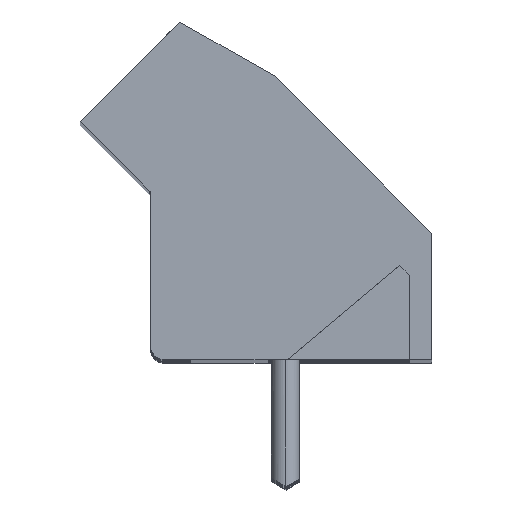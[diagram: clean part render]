
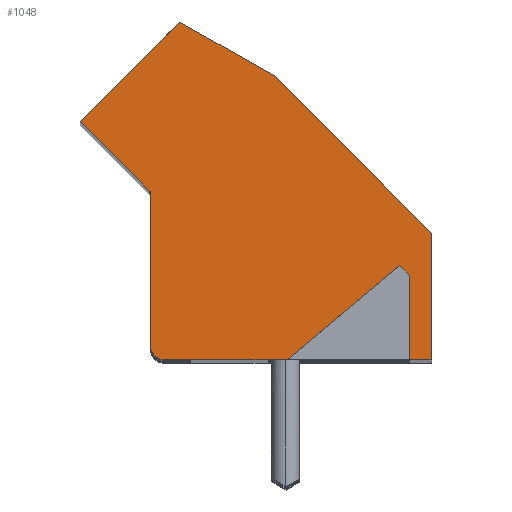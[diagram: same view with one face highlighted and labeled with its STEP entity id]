
A CAD part, top view. The second image highlights one B-rep face of the part: STEP entity #1048.
In plain terms, the highlighted planar face has unit normal (0, 0, 1).
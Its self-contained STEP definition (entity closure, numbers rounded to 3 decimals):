
#118 = VERTEX_POINT ( 'NONE', #8466 ) ;
#120 = EDGE_CURVE ( 'NONE', #118, #121, #8465, .T. ) ;
#121 = VERTEX_POINT ( 'NONE', #8461 ) ;
#134 = VERTEX_POINT ( 'NONE', #8506 ) ;
#136 = EDGE_CURVE ( 'NONE', #134, #137, #8505, .T. ) ;
#137 = VERTEX_POINT ( 'NONE', #8501 ) ;
#152 = EDGE_CURVE ( 'NONE', #178, #171, #8545, .T. ) ;
#171 = VERTEX_POINT ( 'NONE', #8568 ) ;
#178 = VERTEX_POINT ( 'NONE', #8556 ) ;
#181 = EDGE_CURVE ( 'NONE', #121, #182, #8555, .T. ) ;
#182 = VERTEX_POINT ( 'NONE', #8551 ) ;
#190 = EDGE_CURVE ( 'NONE', #182, #191, #8603, .T. ) ;
#191 = VERTEX_POINT ( 'NONE', #8599 ) ;
#193 = EDGE_CURVE ( 'NONE', #137, #194, #8598, .T. ) ;
#194 = VERTEX_POINT ( 'NONE', #8594 ) ;
#319 = EDGE_CURVE ( 'NONE', #15335, #178, #8674, .T. ) ;
#510 = EDGE_CURVE ( 'NONE', #194, #118, #8710, .T. ) ;
#515 = EDGE_CURVE ( 'NONE', #191, #15239, #8706, .T. ) ;
#625 = EDGE_CURVE ( 'NONE', #994, #1052, #8971, .T. ) ;
#994 = VERTEX_POINT ( 'NONE', #9887 ) ;
#996 = EDGE_CURVE ( 'NONE', #994, #134, #9886, .T. ) ;
#1034 = ORIENTED_EDGE ( 'NONE', *, *, #515, .F. ) ;
#1035 = ORIENTED_EDGE ( 'NONE', *, *, #190, .F. ) ;
#1036 = ORIENTED_EDGE ( 'NONE', *, *, #181, .F. ) ;
#1037 = ORIENTED_EDGE ( 'NONE', *, *, #120, .F. ) ;
#1038 = ORIENTED_EDGE ( 'NONE', *, *, #510, .F. ) ;
#1039 = ORIENTED_EDGE ( 'NONE', *, *, #193, .F. ) ;
#1040 = ORIENTED_EDGE ( 'NONE', *, *, #136, .F. ) ;
#1041 = ORIENTED_EDGE ( 'NONE', *, *, #996, .F. ) ;
#1042 = ORIENTED_EDGE ( 'NONE', *, *, #625, .T. ) ;
#1048 = ADVANCED_FACE ( 'NONE', ( #9935 ), #9934, .F. ) ;
#1049 = EDGE_LOOP ( 'NONE', ( #1050, #1053, #1054, #1055, #1034, #1035, #1036, #1037, #1038, #1039, #1040, #1041, #1042 ) ) ;
#1050 = ORIENTED_EDGE ( 'NONE', *, *, #1051, .T. ) ;
#1051 = EDGE_CURVE ( 'NONE', #1052, #171, #9929, .T. ) ;
#1052 = VERTEX_POINT ( 'NONE', #9925 ) ;
#1053 = ORIENTED_EDGE ( 'NONE', *, *, #152, .F. ) ;
#1054 = ORIENTED_EDGE ( 'NONE', *, *, #319, .F. ) ;
#1055 = ORIENTED_EDGE ( 'NONE', *, *, #15334, .T. ) ;
#8461 = CARTESIAN_POINT ( 'NONE',  ( 9.2, 2.984, 0. ) ) ;
#8462 = DIRECTION ( 'NONE',  ( 0., 1., 0. ) ) ;
#8463 = VECTOR ( 'NONE', #8462, 1000. ) ;
#8464 = CARTESIAN_POINT ( 'NONE',  ( 9.2, 6.02, 0. ) ) ;
#8465 = LINE ( 'NONE', #8464, #8463 ) ;
#8466 = CARTESIAN_POINT ( 'NONE',  ( 9.2, -0.016, 0. ) ) ;
#8501 = CARTESIAN_POINT ( 'NONE',  ( 10., 4.484, 0. ) ) ;
#8502 = DIRECTION ( 'NONE',  ( 0.707, -0.707, 0. ) ) ;
#8503 = VECTOR ( 'NONE', #8502, 1000. ) ;
#8504 = CARTESIAN_POINT ( 'NONE',  ( 4.411, 10.073, 0. ) ) ;
#8505 = LINE ( 'NONE', #8504, #8503 ) ;
#8506 = CARTESIAN_POINT ( 'NONE',  ( 4.411, 10.073, 0. ) ) ;
#8541 = DIRECTION ( 'NONE',  ( 1., 0., 0. ) ) ;
#8542 = DIRECTION ( 'NONE',  ( 0., 0., 1. ) ) ;
#8543 = CARTESIAN_POINT ( 'NONE',  ( -0.1, 5.907, 0. ) ) ;
#8544 = AXIS2_PLACEMENT_3D ( 'NONE', #8543, #8542, #8541 ) ;
#8545 = CIRCLE ( 'NONE', #8544, 0.1 ) ;
#8551 = CARTESIAN_POINT ( 'NONE',  ( 8.85, 3.334, 0. ) ) ;
#8552 = DIRECTION ( 'NONE',  ( -0.707, 0.707, 0. ) ) ;
#8553 = VECTOR ( 'NONE', #8552, 1000. ) ;
#8554 = CARTESIAN_POINT ( 'NONE',  ( 9.2, 2.984, 0. ) ) ;
#8555 = LINE ( 'NONE', #8554, #8553 ) ;
#8556 = CARTESIAN_POINT ( 'NONE',  ( 0., 5.907, 0. ) ) ;
#8568 = CARTESIAN_POINT ( 'NONE',  ( -0.029, 5.978, 0. ) ) ;
#8594 = CARTESIAN_POINT ( 'NONE',  ( 10., -0.016, 0. ) ) ;
#8595 = DIRECTION ( 'NONE',  ( 0., -1., 0. ) ) ;
#8596 = VECTOR ( 'NONE', #8595, 1000. ) ;
#8597 = CARTESIAN_POINT ( 'NONE',  ( 10., 6.02, 0. ) ) ;
#8598 = LINE ( 'NONE', #8597, #8596 ) ;
#8599 = CARTESIAN_POINT ( 'NONE',  ( 4.858, -0.016, 0. ) ) ;
#8600 = DIRECTION ( 'NONE',  ( -0.766, -0.643, 0. ) ) ;
#8601 = VECTOR ( 'NONE', #8600, 1000. ) ;
#8602 = CARTESIAN_POINT ( 'NONE',  ( 8.85, 3.334, 0. ) ) ;
#8603 = LINE ( 'NONE', #8602, #8601 ) ;
#8671 = DIRECTION ( 'NONE',  ( 0., 1., 0. ) ) ;
#8672 = VECTOR ( 'NONE', #8671, 1000. ) ;
#8673 = CARTESIAN_POINT ( 'NONE',  ( 0., 6.02, 0. ) ) ;
#8674 = LINE ( 'NONE', #8673, #8672 ) ;
#8703 = DIRECTION ( 'NONE',  ( -1., 0., 0. ) ) ;
#8704 = VECTOR ( 'NONE', #8703, 1000. ) ;
#8705 = CARTESIAN_POINT ( 'NONE',  ( 0.5, -0.016, 0. ) ) ;
#8706 = LINE ( 'NONE', #8705, #8704 ) ;
#8707 = DIRECTION ( 'NONE',  ( -1., 0., 0. ) ) ;
#8708 = VECTOR ( 'NONE', #8707, 1000. ) ;
#8709 = CARTESIAN_POINT ( 'NONE',  ( 0.5, -0.016, 0. ) ) ;
#8710 = LINE ( 'NONE', #8709, #8708 ) ;
#8962 = DIRECTION ( 'NONE',  ( -0.707, -0.707, 0. ) ) ;
#8963 = VECTOR ( 'NONE', #8962, 1000. ) ;
#8970 = CARTESIAN_POINT ( 'NONE',  ( -0.732, 10.216, 0. ) ) ;
#8971 = LINE ( 'NONE', #8970, #8963 ) ;
#9883 = DIRECTION ( 'NONE',  ( 0.87, -0.493, 0. ) ) ;
#9884 = VECTOR ( 'NONE', #9883, 1000. ) ;
#9885 = CARTESIAN_POINT ( 'NONE',  ( 1.036, 11.984, 0. ) ) ;
#9886 = LINE ( 'NONE', #9885, #9884 ) ;
#9887 = CARTESIAN_POINT ( 'NONE',  ( 1.036, 11.984, 0. ) ) ;
#9925 = CARTESIAN_POINT ( 'NONE',  ( -2.5, 8.448, 0. ) ) ;
#9926 = DIRECTION ( 'NONE',  ( 0.707, -0.707, 0. ) ) ;
#9927 = VECTOR ( 'NONE', #9926, 1000. ) ;
#9928 = CARTESIAN_POINT ( 'NONE',  ( -1.265, 7.213, 0. ) ) ;
#9929 = LINE ( 'NONE', #9928, #9927 ) ;
#9930 = DIRECTION ( 'NONE',  ( -1., 0., 0. ) ) ;
#9931 = DIRECTION ( 'NONE',  ( 0., 0., -1. ) ) ;
#9932 = CARTESIAN_POINT ( 'NONE',  ( 10., -0.016, 0. ) ) ;
#9933 = AXIS2_PLACEMENT_3D ( 'NONE', #9932, #9931, #9930 ) ;
#9934 = PLANE ( 'NONE',  #9933 ) ;
#9935 = FACE_OUTER_BOUND ( 'NONE', #1049, .T. ) ;
#15239 = VERTEX_POINT ( 'NONE', #28923 ) ;
#15334 = EDGE_CURVE ( 'NONE', #15335, #15239, #29112, .T. ) ;
#15335 = VERTEX_POINT ( 'NONE', #29103 ) ;
#28923 = CARTESIAN_POINT ( 'NONE',  ( 0.5, -0.016, 0. ) ) ;
#29103 = CARTESIAN_POINT ( 'NONE',  ( 0., 0.484, 0. ) ) ;
#29105 = DIRECTION ( 'NONE',  ( -1., 0., 0. ) ) ;
#29106 = DIRECTION ( 'NONE',  ( 0., 0., 1. ) ) ;
#29109 = CARTESIAN_POINT ( 'NONE',  ( 0.5, 0.484, 0. ) ) ;
#29110 = AXIS2_PLACEMENT_3D ( 'NONE', #29109, #29106, #29105 ) ;
#29112 = CIRCLE ( 'NONE', #29110, 0.5 ) ;
